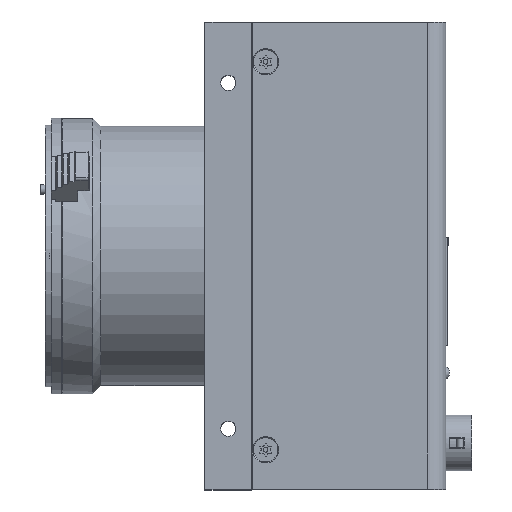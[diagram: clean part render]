
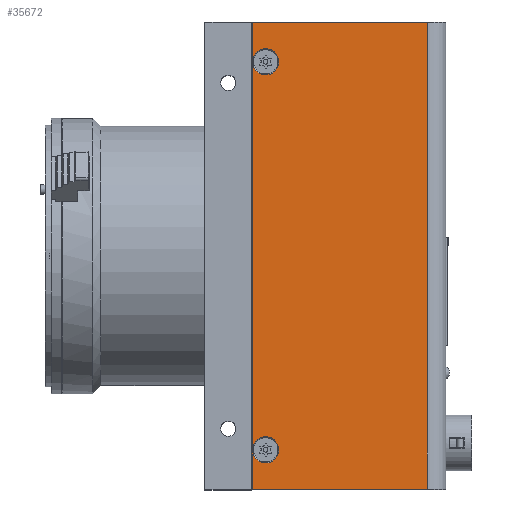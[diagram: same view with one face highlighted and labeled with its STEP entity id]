
A CAD part, top view. The second image highlights one B-rep face of the part: STEP entity #35672.
In plain terms, the highlighted planar face has unit normal (0, 0, 1).
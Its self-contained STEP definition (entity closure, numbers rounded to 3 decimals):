
#9282 = VECTOR ( 'NONE', #32282, 1000. ) ;
#10777 = EDGE_CURVE ( 'NONE', #57492, #149279, #95564, .T. ) ;
#12117 = ORIENTED_EDGE ( 'NONE', *, *, #65850, .F. ) ;
#12428 = LINE ( 'NONE', #113997, #35772 ) ;
#14329 = AXIS2_PLACEMENT_3D ( 'NONE', #29280, #165477, #44294 ) ;
#24544 = DIRECTION ( 'NONE',  ( 0., 1., 0. ) ) ;
#26374 = VERTEX_POINT ( 'NONE', #49709 ) ;
#27328 = CIRCLE ( 'NONE', #14329, 2.8 ) ;
#29280 = CARTESIAN_POINT ( 'NONE',  ( 13., 41.5, 29.9 ) ) ;
#31777 = AXIS2_PLACEMENT_3D ( 'NONE', #134168, #74898, #45528 ) ;
#32282 = DIRECTION ( 'NONE',  ( 0., -1., 0. ) ) ;
#34473 = CARTESIAN_POINT ( 'NONE',  ( 51.56, 49.9, 29.9 ) ) ;
#35087 = DIRECTION ( 'NONE',  ( 0., 0., 1. ) ) ;
#35672 = ADVANCED_FACE ( 'NONE', ( #77710, #108027, #161521 ), #118630, .F. ) ;
#35772 = VECTOR ( 'NONE', #24544, 1000. ) ;
#37531 = LINE ( 'NONE', #187289, #186730 ) ;
#37931 = CARTESIAN_POINT ( 'NONE',  ( 15.8, 41.5, 29.9 ) ) ;
#44294 = DIRECTION ( 'NONE',  ( 1., 0., 0. ) ) ;
#45528 = DIRECTION ( 'NONE',  ( -1., 0., 0. ) ) ;
#49709 = CARTESIAN_POINT ( 'NONE',  ( 15.8, -41.5, 29.9 ) ) ;
#57492 = VERTEX_POINT ( 'NONE', #71696 ) ;
#59820 = EDGE_CURVE ( 'NONE', #26374, #26374, #117975, .T. ) ;
#62606 = EDGE_LOOP ( 'NONE', ( #170113 ) ) ;
#62907 = CARTESIAN_POINT ( 'NONE',  ( 10.1, 49.9, 29.9 ) ) ;
#63782 = DIRECTION ( 'NONE',  ( 1., 0., 0. ) ) ;
#65850 = EDGE_CURVE ( 'NONE', #57492, #138936, #67357, .T. ) ;
#67357 = LINE ( 'NONE', #34473, #78951 ) ;
#70634 = DIRECTION ( 'NONE',  ( 1., 0., 0. ) ) ;
#71696 = CARTESIAN_POINT ( 'NONE',  ( 10.1, 49.9, 29.9 ) ) ;
#74898 = DIRECTION ( 'NONE',  ( 0., 0., -1. ) ) ;
#77710 = FACE_BOUND ( 'NONE', #62606, .T. ) ;
#78951 = VECTOR ( 'NONE', #107543, 1000. ) ;
#82065 = ORIENTED_EDGE ( 'NONE', *, *, #133691, .T. ) ;
#86342 = EDGE_CURVE ( 'NONE', #189619, #189619, #27328, .T. ) ;
#93770 = ORIENTED_EDGE ( 'NONE', *, *, #152763, .T. ) ;
#95564 = LINE ( 'NONE', #62907, #9282 ) ;
#106581 = AXIS2_PLACEMENT_3D ( 'NONE', #168677, #35087, #63782 ) ;
#107543 = DIRECTION ( 'NONE',  ( 1., 0., 0. ) ) ;
#108027 = FACE_BOUND ( 'NONE', #191111, .T. ) ;
#113997 = CARTESIAN_POINT ( 'NONE',  ( 47.56, 49.9, 29.9 ) ) ;
#117602 = CARTESIAN_POINT ( 'NONE',  ( 47.56, -49.9, 29.9 ) ) ;
#117975 = CIRCLE ( 'NONE', #106581, 2.8 ) ;
#118630 = PLANE ( 'NONE',  #31777 ) ;
#127105 = ORIENTED_EDGE ( 'NONE', *, *, #59820, .F. ) ;
#133327 = ORIENTED_EDGE ( 'NONE', *, *, #10777, .T. ) ;
#133691 = EDGE_CURVE ( 'NONE', #144552, #138936, #12428, .T. ) ;
#134168 = CARTESIAN_POINT ( 'NONE',  ( 51.56, 49.9, 29.9 ) ) ;
#138636 = CARTESIAN_POINT ( 'NONE',  ( 10.1, -49.9, 29.9 ) ) ;
#138936 = VERTEX_POINT ( 'NONE', #165484 ) ;
#144552 = VERTEX_POINT ( 'NONE', #117602 ) ;
#149279 = VERTEX_POINT ( 'NONE', #138636 ) ;
#152763 = EDGE_CURVE ( 'NONE', #149279, #144552, #37531, .T. ) ;
#161521 = FACE_OUTER_BOUND ( 'NONE', #181970, .T. ) ;
#165477 = DIRECTION ( 'NONE',  ( 0., 0., 1. ) ) ;
#165484 = CARTESIAN_POINT ( 'NONE',  ( 47.56, 49.9, 29.9 ) ) ;
#168677 = CARTESIAN_POINT ( 'NONE',  ( 13., -41.5, 29.9 ) ) ;
#170113 = ORIENTED_EDGE ( 'NONE', *, *, #86342, .F. ) ;
#181970 = EDGE_LOOP ( 'NONE', ( #93770, #82065, #12117, #133327 ) ) ;
#186730 = VECTOR ( 'NONE', #70634, 1000. ) ;
#187289 = CARTESIAN_POINT ( 'NONE',  ( 51.56, -49.9, 29.9 ) ) ;
#189619 = VERTEX_POINT ( 'NONE', #37931 ) ;
#191111 = EDGE_LOOP ( 'NONE', ( #127105 ) ) ;
